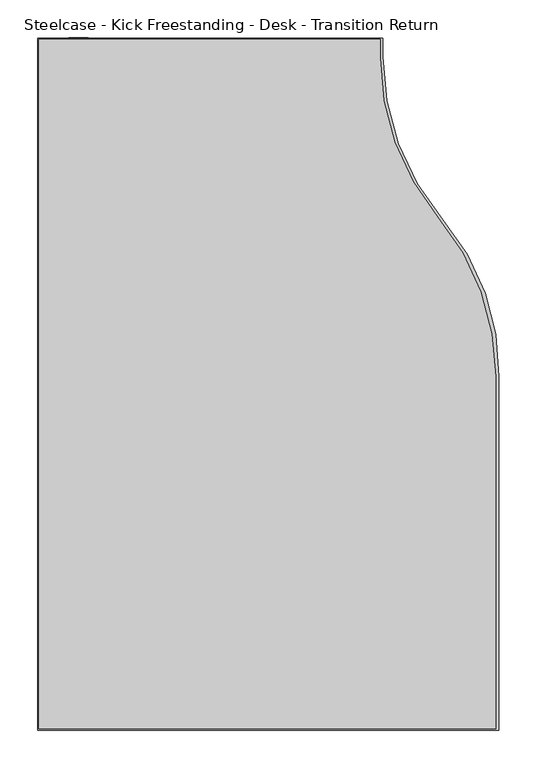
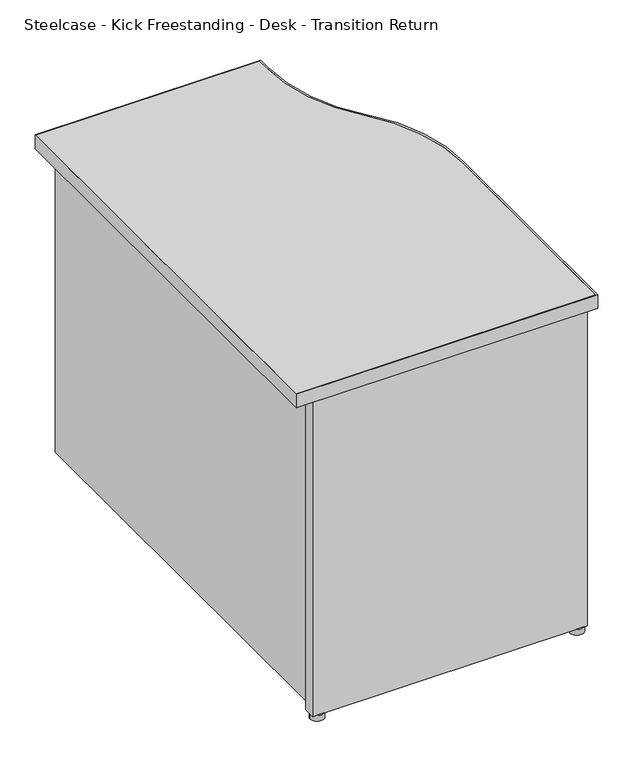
"""IFC4 building model written with IfcOpenShell, lengths in millimetres: furniture geometry, Steelcase - Kick Freestanding - Desk - Transition Return : 18D x 36W - Left - Full Panel."""

import ifcopenshell
import ifcopenshell.guid

model = None  # the IFC model being written
_history = None  # IfcOwnerHistory: only IFC2X3 demands one
_inside = {}  # id of a spatial element -> (the spatial element, [elements in it])
_under = {}  # id of a project, library or spatial element -> (it, [spatial elements below it])
_declared = {}  # id of a project -> (the project, [libraries it declares])
_typed = {}  # id of a type object -> (the type object, [elements of that type])
_made_of = {}  # id of a material, layer set ... -> (it, [elements and type objects made of it])


def new_model(schema):
    """Start an empty IFC model of exactly this schema.

    Asked for "IFC4X3", IfcOpenShell would pick the latest addendum, in which some entities
    have other attributes; the version numbers below select the first issue.
    IFC2X3 requires an IfcOwnerHistory on every rooted entity: one is made here for all.
    """
    global model, _history
    if schema == "IFC4X3":
        model = ifcopenshell.file(schema_version=(4, 3, 0, 0))
    else:
        model = ifcopenshell.file(schema=schema)
    _inside.clear()
    _under.clear()
    _declared.clear()
    _typed.clear()
    _made_of.clear()
    _history = None
    if model.schema == "IFC2X3":
        org = make("IfcOrganization", Name="unknown")
        user = make(
            "IfcPersonAndOrganization",
            ThePerson=make("IfcPerson", FamilyName="unknown"),
            TheOrganization=org,
        )
        app = make(
            "IfcApplication",
            ApplicationDeveloper=org,
            Version="unknown",
            ApplicationFullName="unknown",
            ApplicationIdentifier="unknown",
        )
        _history = make(
            "IfcOwnerHistory",
            OwningUser=user,
            OwningApplication=app,
            ChangeAction="ADDED",
            CreationDate=0,
        )
    return model


def make(cls, **values):
    """One entity of the class cls with the attributes given. An attribute that is None is left unset."""
    return model.create_entity(
        cls, **{name: value for name, value in values.items() if value is not None}
    )


def rooted(cls, **values):
    """An entity with a GlobalId (a new one), such as an element, a storey or a relation."""
    return make(cls, GlobalId=ifcopenshell.guid.new(), OwnerHistory=_history, **values)


def si_unit(unit_type, name, prefix=None):
    """IfcSIUnit, for example si_unit("LENGTHUNIT", "METRE", prefix="MILLI")."""
    return make("IfcSIUnit", UnitType=unit_type, Prefix=prefix, Name=name)


def assignment(units):
    """IfcUnitAssignment: the units of a project."""
    return None if units is None else make("IfcUnitAssignment", Units=units)


def point(xyz):
    """IfcCartesianPoint."""
    return None if xyz is None else make("IfcCartesianPoint", Coordinates=xyz)


def direction(xyz):
    """IfcDirection."""
    return None if xyz is None else make("IfcDirection", DirectionRatios=xyz)


def frame(location, z_axis=None, x_axis=None):
    """IfcAxis2Placement3D, a coordinate frame: its origin and axes. An axis left out is left unset."""
    return make(
        "IfcAxis2Placement3D",
        Location=point(location),
        Axis=direction(z_axis),
        RefDirection=direction(x_axis),
    )


def frame_2d(location, x_axis=None):
    """IfcAxis2Placement2D, a coordinate frame in the plane: its origin and x axis."""
    return make(
        "IfcAxis2Placement2D", Location=point(location), RefDirection=direction(x_axis)
    )


def origin():
    """The frame at (0, 0, 0) with its axes left unset."""
    return frame((0.0, 0.0, 0.0))


def origin_with_axes():
    """The frame at (0, 0, 0) with the z axis (0, 0, 1) and the x axis (1, 0, 0) written out."""
    return frame((0.0, 0.0, 0.0), z_axis=(0.0, 0.0, 1.0), x_axis=(1.0, 0.0, 0.0))


def place(relative_to, where):
    """IfcLocalPlacement: puts the frame where relative to a parent placement (None: the world)."""
    return make(
        "IfcLocalPlacement", PlacementRelTo=relative_to, RelativePlacement=where
    )


def context(
    kind, dimensions, precision=None, world=None, true_north=None, identifier=None
):
    """IfcGeometricRepresentationContext, for example the 3D "Model" context."""
    return make(
        "IfcGeometricRepresentationContext",
        ContextIdentifier=identifier,
        ContextType=kind,
        CoordinateSpaceDimension=dimensions,
        Precision=precision,
        WorldCoordinateSystem=world,
        TrueNorth=true_north,
    )


def project(units=None, contexts=None):
    """IfcProject with its units and contexts."""
    return rooted(
        "IfcProject",
        Name="project",
        RepresentationContexts=contexts,
        UnitsInContext=assignment(units),
    )


def spatial(cls, under=None, at=None, **own):
    """A site, building, storey or space (cls), placed at a placement, below another one or the project."""
    s = rooted(cls, ObjectPlacement=at, **own)
    if under is not None:
        _under.setdefault(under.id(), (under, []))[1].append(s)
    return s


def polyline(points):
    """IfcPolyline through the points."""
    return make("IfcPolyline", Points=[point(p) for p in points])


def circle_curve(where, radius):
    """IfcCircle in the frame where."""
    return make("IfcCircle", Position=where, Radius=radius)


def trimmed(basis, trim1, trim2, sense, master):
    """IfcTrimmedCurve: the piece of a basis curve between two trims."""
    return make(
        "IfcTrimmedCurve",
        BasisCurve=basis,
        Trim1=trim1,
        Trim2=trim2,
        SenseAgreement=sense,
        MasterRepresentation=master,
    )


def segment(curve, same_sense, transition):
    """IfcCompositeCurveSegment."""
    return make(
        "IfcCompositeCurveSegment",
        Transition=transition,
        SameSense=same_sense,
        ParentCurve=curve,
    )


def composite_curve(segments, self_intersect=None):
    """IfcCompositeCurve: segments joined end to end."""
    return make("IfcCompositeCurve", Segments=segments, SelfIntersect=self_intersect)


def outline(outer, holes=None, kind="AREA"):
    """IfcArbitraryClosedProfileDef: a profile drawn as a closed curve; with holes, ...WithVoids."""
    if holes is None:
        return make("IfcArbitraryClosedProfileDef", ProfileType=kind, OuterCurve=outer)
    return make(
        "IfcArbitraryProfileDefWithVoids",
        ProfileType=kind,
        OuterCurve=outer,
        InnerCurves=holes,
    )


def extrude(swept, where, along, depth):
    """IfcExtrudedAreaSolid: the profile swept, set in the frame where, extruded along a direction by depth."""
    return make(
        "IfcExtrudedAreaSolid",
        SweptArea=swept,
        Position=where,
        ExtrudedDirection=direction(along),
        Depth=depth,
    )


def shape(context_of_items, identifier, shape_type, items):
    """IfcShapeRepresentation: the items that make up one representation, for example the "Body"."""
    return make(
        "IfcShapeRepresentation",
        ContextOfItems=context_of_items,
        RepresentationIdentifier=identifier,
        RepresentationType=shape_type,
        Items=items,
    )


def source(mapping_origin, context_of_items, identifier, shape_type, items):
    """IfcRepresentationMap: a shape defined once, which mapped items show again and again."""
    return make(
        "IfcRepresentationMap",
        MappingOrigin=mapping_origin,
        MappedRepresentation=shape(context_of_items, identifier, shape_type, items),
    )


def transform(
    local_origin,
    x_axis=None,
    y_axis=None,
    z_axis=None,
    scale=None,
    scale2=None,
    scale3=None,
    uniform=True,
):
    """IfcCartesianTransformationOperator3D, or its non-uniform kind. x_axis, y_axis, z_axis: its Axis1, 2, 3."""
    if uniform:
        return make(
            "IfcCartesianTransformationOperator3D",
            Axis1=direction(x_axis),
            Axis2=direction(y_axis),
            LocalOrigin=point(local_origin),
            Scale=scale,
            Axis3=direction(z_axis),
        )
    return make(
        "IfcCartesianTransformationOperator3DnonUniform",
        Axis1=direction(x_axis),
        Axis2=direction(y_axis),
        LocalOrigin=point(local_origin),
        Scale=scale,
        Axis3=direction(z_axis),
        Scale2=scale2,
        Scale3=scale3,
    )


def mapped(mapping_source, mapping_target):
    """IfcMappedItem: shows the shape of a source again, moved by a transform."""
    return make(
        "IfcMappedItem", MappingSource=mapping_source, MappingTarget=mapping_target
    )


def made_of(thing, what):
    """Note that an element or type object is made of a material, layer set ...; save() writes the relation."""
    if what is not None:
        _made_of.setdefault(what.id(), (what, []))[1].append(thing)
    return thing


def element(
    cls,
    number,
    at=None,
    inside=None,
    cuts=None,
    type_object=None,
    material=None,
    context=None,
    identifier="Body",
    shape_type=None,
    held_by="IfcProductDefinitionShape",
    body=None,
    shapes=None,
    **own,
):
    """One element of the class cls, such as IfcWall. Its Tag is "e" and its number.

    at: its placement. inside: the storey or other place that contains it. cuts: it is an
    opening in that element (IfcRelVoidsElement). A single representation is given by context,
    identifier, shape_type and body (its items); several are given by shapes. held_by: the class
    of the entity that holds the representations. save() writes the other relations.
    """
    e = rooted(cls, Tag="e%d" % number, ObjectPlacement=at, **own)
    if body is not None:
        shapes = [shape(context, identifier, shape_type, body)]
    if shapes is not None:
        e.Representation = make(held_by, Representations=shapes)
    if inside is not None:
        _inside.setdefault(inside.id(), (inside, []))[1].append(e)
    if cuts is not None:
        rooted(
            "IfcRelVoidsElement", RelatingBuildingElement=cuts, RelatedOpeningElement=e
        )
    if type_object is not None:
        _typed.setdefault(type_object.id(), (type_object, []))[1].append(e)
    return made_of(e, material)


def aggregate(whole, parts):
    """IfcRelAggregates: a whole, such as a stair, and the parts it consists of."""
    return rooted("IfcRelAggregates", RelatingObject=whole, RelatedObjects=parts)


def save(model, path):
    """Write the relations noted so far, then the file.

    IfcRelAggregates (storeys below a building ...), IfcRelContainedInSpatialStructure (elements
    in a storey), IfcRelDefinesByType, IfcRelAssociatesMaterial and IfcRelDeclares: one each for
    every whole, place, type object, material and project.
    """
    for whole, parts in _under.values():
        aggregate(whole, parts)
    for where, things in _inside.values():
        rooted(
            "IfcRelContainedInSpatialStructure",
            RelatedElements=things,
            RelatingStructure=where,
        )
    for kind, things in _typed.values():
        rooted("IfcRelDefinesByType", RelatedObjects=things, RelatingType=kind)
    for what, things in _made_of.values():
        rooted("IfcRelAssociatesMaterial", RelatedObjects=things, RelatingMaterial=what)
    for by, libraries in _declared.values():
        rooted("IfcRelDeclares", RelatingContext=by, RelatedDefinitions=libraries)
    model.write(path)


def steelcase_kick_freestanding_desk_transition_return_766a7eb3(model_context):
    return source(origin(), model_context, "Body", "SweptSolid", [
        extrude(outline(composite_curve([segment(trimmed(circle_curve(frame_2d((2220.2474425, -1436.3225152)), 13.97), [point((2206.2774425, -1436.3225152))], [point((2234.2174425, -1436.3225152))], False, "CARTESIAN"), True, "CONTINUOUS"), segment(trimmed(circle_curve(frame_2d((2220.2474425, -1436.3225152)), 13.97), [point((2234.2174425, -1436.3225152))], [point((2206.2774425, -1436.3225152))], False, "CARTESIAN"), True, "CONTINUOUS")], self_intersect=False)), origin_with_axes(), (0.0, 0.0, 1.0), 12.7),
        extrude(outline(composite_curve([segment(trimmed(circle_curve(frame_2d((2745.2654425, -1436.2400875)), 13.97), [point((2731.2954425, -1436.2400875))], [point((2759.2354425, -1436.2400875))], False, "CARTESIAN"), True, "CONTINUOUS"), segment(trimmed(circle_curve(frame_2d((2745.2654425, -1436.2400875)), 13.97), [point((2759.2354425, -1436.2400875))], [point((2731.2954425, -1436.2400875))], False, "CARTESIAN"), True, "CONTINUOUS")], self_intersect=False)), origin_with_axes(), (0.0, 0.0, 1.0), 12.7),
        extrude(outline(composite_curve([segment(polyline([(2616.8176592, -547.8051152), (2616.8176592, -572.1320079)]), True, "CONTINUOUS"), segment(trimmed(circle_curve(frame_2d((2941.6463505, -574.5942763)), 324.8380233), [point((2616.8176592, -572.1320079))], [point((2692.5587903, -783.1011797))], True, "CARTESIAN"), True, "CONTINUOUS"), segment(trimmed(circle_curve(frame_2d((2440.4841513, -994.1085152)), 328.7335079), [point((2692.5587903, -783.1011797))], [point((2769.2176592, -994.1085152))], False, "CARTESIAN"), True, "CONTINUOUS"), segment(polyline([(2769.2176592, -994.1085152), (2769.2176592, -1459.4619332), (2164.8500425, -1459.4619332), (2164.8500425, -547.8051152), (2616.8176592, -547.8051152)]), True, "CONTINUOUS")], self_intersect=False)), frame((0.0, 0.0, 694.944), z_axis=(0.0, 0.0, 1.0), x_axis=(1.0, 0.0, 0.0)), (0.0, 0.0, 1.0), 28.956),
        extrude(outline(composite_curve([segment(polyline([(2619.7894255, -546.8145152), (2619.7894255, -571.0836731)]), True, "CONTINUOUS"), segment(trimmed(circle_curve(frame_2d((2951.3460478, -571.0836731)), 331.5566223), [point((2619.7894255, -571.0836731))], [point((2699.261298, -786.4509703))], True, "CARTESIAN"), True, "CONTINUOUS"), segment(trimmed(circle_curve(frame_2d((2463.6949436, -987.7058619)), 309.8306613), [point((2699.261298, -786.4509703))], [point((2773.4594425, -994.1085152))], False, "CARTESIAN"), True, "CONTINUOUS"), segment(polyline([(2773.4594425, -994.1085152), (2773.4594425, -1461.2145152), (2163.8594425, -1461.2145152), (2163.8594425, -546.8145152), (2619.7894255, -546.8145152)]), True, "CONTINUOUS")], self_intersect=False), holes=[composite_curve([segment(polyline([(2616.8176592, -547.8051152), (2164.8500425, -547.8051152), (2164.8500425, -1459.4619332), (2769.2176592, -1459.4619332), (2769.2176592, -994.1085152)]), True, "CONTINUOUS"), segment(trimmed(circle_curve(frame_2d((2440.4841513, -994.1085152)), 328.7335079), [point((2769.2176592, -994.1085152))], [point((2692.5587903, -783.1011797))], True, "CARTESIAN"), True, "CONTINUOUS"), segment(trimmed(circle_curve(frame_2d((2941.6463505, -574.5942763)), 324.8380233), [point((2692.5587903, -783.1011797))], [point((2616.8176592, -572.1320079))], False, "CARTESIAN"), True, "CONTINUOUS"), segment(polyline([(2616.8176592, -572.1320079), (2616.8176592, -547.8051152)]), True, "CONTINUOUS")], self_intersect=False)]), frame((0.0, 0.0, 694.944), z_axis=(0.0, 0.0, 1.0), x_axis=(1.0, 0.0, 0.0)), (0.0, 0.0, 1.0), 28.956),
        extrude(outline(polyline([(2205.0074425, -1423.2669041), (2328.2736437, -1423.2669041), (2328.2736437, -1445.6951136), (2427.9940467, -1445.6951136), (2427.9940467, -1423.2669041), (2536.7314502, -1423.2669041), (2536.7314502, -1445.6951136), (2636.4518532, -1445.6951136), (2636.4518532, -1423.2669041), (2759.4894376, -1423.2669041), (2759.4894376, -1447.7525152), (2205.0074425, -1447.7525152), (2205.0074425, -1423.2669041)])), frame((0.0, 0.0, 12.7), z_axis=(0.0, 0.0, 1.0), x_axis=(1.0, 0.0, 0.0)), (0.0, 0.0, 1.0), 682.244),
        extrude(outline(polyline([(2230.4074426, -546.0525152), (2230.4074426, -1423.2669041), (2205.0074425, -1423.2669041), (2205.0074425, -546.0525152), (2230.4074426, -546.0525152)])), frame((0.0, 0.0, 31.242), z_axis=(0.0, 0.0, 1.0), x_axis=(1.0, 0.0, 0.0)), (0.0, 0.0, 1.0), 663.702),
    ])


if __name__ == "__main__":
    model = new_model("IFC4")
    model_context = context("Model", 3, world=origin())
    ifc_project = project(units=[si_unit("LENGTHUNIT", "METRE", prefix="MILLI")], contexts=[model_context])
    site = spatial("IfcSite", under=ifc_project)
    building = spatial("IfcBuilding", under=site)
    placement = place(None, origin())
    steelcase_kick_freestanding_desk_transition_return_shape = steelcase_kick_freestanding_desk_transition_return_766a7eb3(model_context)
    element("IfcFurniture", 1, ObjectType="Steelcase - Kick Freestanding - Desk - Transition Return : 18D x 36W - Left - Full Panel", at=placement, inside=building, context=model_context, shape_type="MappedRepresentation", body=[
        mapped(steelcase_kick_freestanding_desk_transition_return_shape, transform((0.0, 0.0, 0.0), x_axis=(1.0, 0.0, 0.0), y_axis=(0.0, 1.0, 0.0), z_axis=(0.0, 0.0, 1.0))),
    ])
    save(model, "model.ifc")
